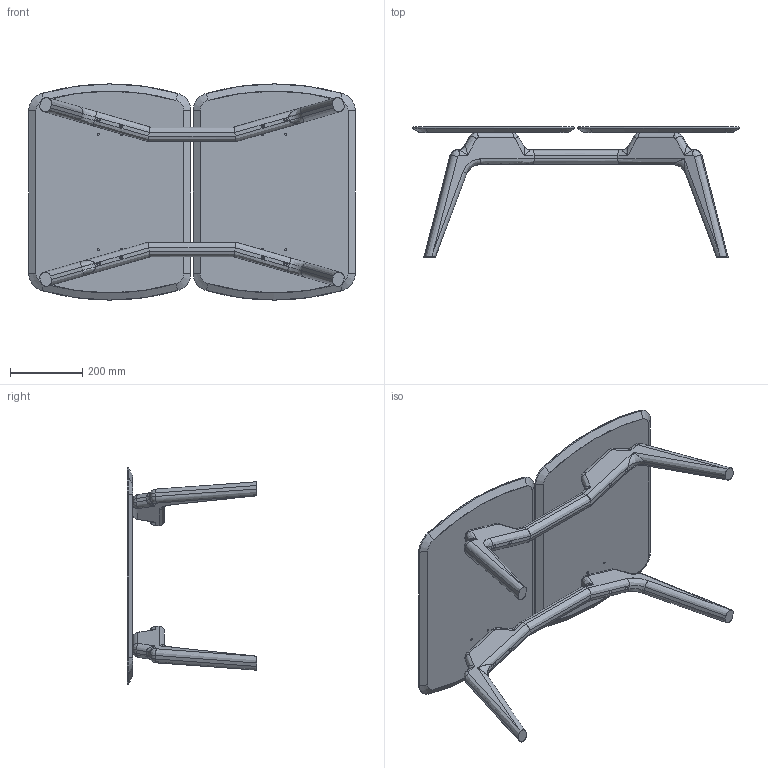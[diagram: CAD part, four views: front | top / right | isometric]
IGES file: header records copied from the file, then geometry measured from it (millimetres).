
Start section: SolidWorks IGES file using analytic representation for surfaces
Global section: file name: N:\OT\OFICINA TECNICA\PROYECTOS\EN DESARROLLO\MESA_MIXTA\3D SOLIDWORKS\MESA_MIXTA_DUO_S.IGS; native system: SolidWorks 2016; preprocessor: SolidWorks 2016; author: Usuario; date: 190802.115347; units: millimetre
Bounding box: 906 x 360 x 600 mm (x, y, z)
Surface area: 1499649.7 mm2 (no closed solid volume)
Topology: 0 solids, 0 shells, 336 faces, 4880 edges, 4860 vertices
Faces by surface type: revolution 184, bspline 152
